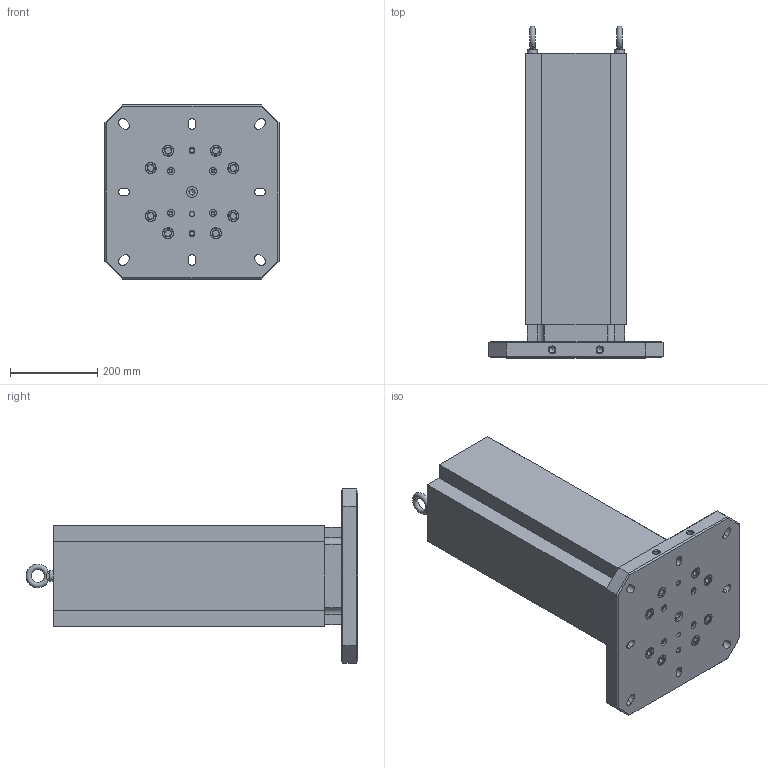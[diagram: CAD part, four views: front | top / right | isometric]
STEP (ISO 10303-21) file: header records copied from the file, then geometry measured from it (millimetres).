
FILE_DESCRIPTION (( 'STEP AP214' ), '1' );
FILE_NAME ('MTA-4004U-700_WEBSITE.step', '2025-08-11T12:45:54', ( '' ), ( '' ), 'SwSTEP 2.0', 'SolidWorks 2024', '' );
FILE_SCHEMA (( 'AUTOMOTIVE_DESIGN' ));
Length unit declared in the file: millimetre
Products named in the file (7): HW.76172_WEBSITE; MTA-4004U-700_WEBSITE; HW.76452_dev_WEBSITE_91290A835; RL96-14TC_WEBSITE; MT-4662A_WEBSITE_MT-4600A; RL96-4004BUA_WEBSITE; M12X24MM.EB (McM 3040T15)_WEBSITE_3040T15
Assembly tree (17 placements, depth 2):
  MTA-4004U-700_WEBSITE
    RL96-4004BUA_WEBSITE
    MT-4662A_WEBSITE_MT-4600A
    M12X24MM.EB (McM 3040T15)_WEBSITE_3040T15  x2
    HW.76452_dev_WEBSITE_91290A835  x8
    RL96-14TC_WEBSITE
    HW.76172_WEBSITE  x4
Bounding box: 400 x 762.83 x 400 mm (x, y, z)
Volume: 27474702.3 mm3; surface area: 1549517 mm2
Topology: 17 solids, 17 shells, 585 faces, 1278 edges, 787 vertices
Faces by surface type: plane 314, cylinder 158, cone 111, torus 2
Full cylindrical faces by diameter (mm): 5 x4, 6 x4, 6.6 x4, 8.5 x4, 10 x4, 10.025 x4, 10.2 x4, 11 x4, 12 x3, 14 x12, 16 x8, 16.02 x4, 17.5 x16, 23 x2, 24 x8, 25.025 x1, 26 x8
Entity records: 11576 total; most frequent: CARTESIAN_POINT 1987, DIRECTION 1878, ORIENTED_EDGE 1574, EDGE_CURVE 787, AXIS2_PLACEMENT_3D 702, EDGE_LOOP 588, VERTEX_POINT 561, LINE 474
